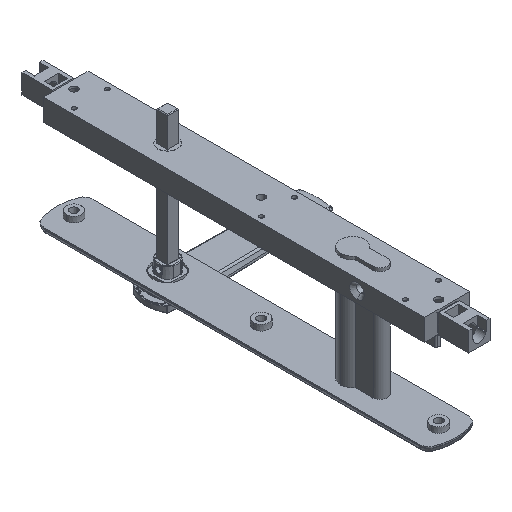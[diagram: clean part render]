
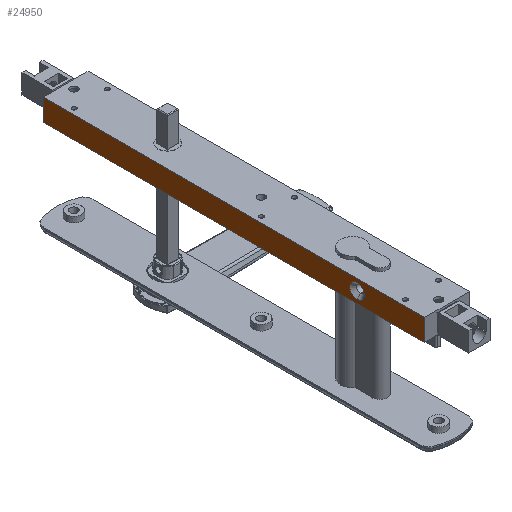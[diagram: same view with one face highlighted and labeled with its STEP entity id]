
A CAD part, isometric view. The second image highlights one B-rep face of the part: STEP entity #24950.
In plain terms, the highlighted planar face has unit normal (-1, 0, 0).
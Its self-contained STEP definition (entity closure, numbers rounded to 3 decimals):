
#1233 = EDGE_CURVE ( 'NONE', #19402, #24751, #26408, .T. ) ;
#1424 = CARTESIAN_POINT ( 'NONE',  ( -16., -151., 0. ) ) ;
#1786 = DIRECTION ( 'NONE',  ( 0., 0., 1. ) ) ;
#1937 = DIRECTION ( 'NONE',  ( -1., 0., 0. ) ) ;
#1944 = CARTESIAN_POINT ( 'NONE',  ( -16., 72.75, 7.75 ) ) ;
#2325 = CARTESIAN_POINT ( 'NONE',  ( -16., -151., 5.2 ) ) ;
#2965 = EDGE_CURVE ( 'NONE', #17445, #14324, #7978, .T. ) ;
#3465 = CIRCLE ( 'NONE', #11325, 5.2 ) ;
#3829 = EDGE_CURVE ( 'NONE', #19402, #19536, #29491, .T. ) ;
#4014 = EDGE_CURVE ( 'NONE', #24751, #25213, #21237, .T. ) ;
#4384 = FACE_OUTER_BOUND ( 'NONE', #19575, .T. ) ;
#4839 = EDGE_CURVE ( 'NONE', #14324, #17445, #3465, .T. ) ;
#4949 = VECTOR ( 'NONE', #8374, 1000. ) ;
#5782 = CARTESIAN_POINT ( 'NONE',  ( -16., 72.75, 7.75 ) ) ;
#7131 = CARTESIAN_POINT ( 'NONE',  ( -16., -151., 0. ) ) ;
#7978 = CIRCLE ( 'NONE', #25071, 5.2 ) ;
#8374 = DIRECTION ( 'NONE',  ( 0., -1., 0. ) ) ;
#8542 = LINE ( 'NONE', #10666, #4949 ) ;
#8601 = CARTESIAN_POINT ( 'NONE',  ( -16., -199.25, 7.75 ) ) ;
#8976 = ORIENTED_EDGE ( 'NONE', *, *, #2965, .F. ) ;
#10666 = CARTESIAN_POINT ( 'NONE',  ( -16., 72.75, -7.75 ) ) ;
#11019 = DIRECTION ( 'NONE',  ( 0., 0., -1. ) ) ;
#11325 = AXIS2_PLACEMENT_3D ( 'NONE', #7131, #1937, #1786 ) ;
#12606 = VECTOR ( 'NONE', #28698, 1000. ) ;
#13051 = ORIENTED_EDGE ( 'NONE', *, *, #1233, .F. ) ;
#13397 = FACE_BOUND ( 'NONE', #15279, .T. ) ;
#13795 = CARTESIAN_POINT ( 'NONE',  ( -16., 72.75, -7.75 ) ) ;
#13937 = CARTESIAN_POINT ( 'NONE',  ( -16., 72.75, 7.75 ) ) ;
#14324 = VERTEX_POINT ( 'NONE', #2325 ) ;
#15279 = EDGE_LOOP ( 'NONE', ( #27353, #8976 ) ) ;
#16196 = DIRECTION ( 'NONE',  ( 0., 0., -1. ) ) ;
#17445 = VERTEX_POINT ( 'NONE', #27828 ) ;
#19402 = VERTEX_POINT ( 'NONE', #13937 ) ;
#19536 = VERTEX_POINT ( 'NONE', #13795 ) ;
#19575 = EDGE_LOOP ( 'NONE', ( #21243, #25382, #13051, #24788 ) ) ;
#19894 = DIRECTION ( 'NONE',  ( -1., 0., 0. ) ) ;
#20278 = VECTOR ( 'NONE', #11019, 1000. ) ;
#21237 = LINE ( 'NONE', #25375, #21762 ) ;
#21243 = ORIENTED_EDGE ( 'NONE', *, *, #21437, .T. ) ;
#21437 = EDGE_CURVE ( 'NONE', #19536, #25213, #8542, .T. ) ;
#21762 = VECTOR ( 'NONE', #16196, 1000. ) ;
#24751 = VERTEX_POINT ( 'NONE', #8601 ) ;
#24772 = CARTESIAN_POINT ( 'NONE',  ( -16., 72.75, 7.75 ) ) ;
#24788 = ORIENTED_EDGE ( 'NONE', *, *, #3829, .T. ) ;
#24789 = DIRECTION ( 'NONE',  ( 0., 0., 1. ) ) ;
#24950 = ADVANCED_FACE ( 'NONE', ( #13397, #4384 ), #30028, .F. ) ;
#25012 = DIRECTION ( 'NONE',  ( 1., 0., 0. ) ) ;
#25071 = AXIS2_PLACEMENT_3D ( 'NONE', #1424, #19894, #24789 ) ;
#25084 = AXIS2_PLACEMENT_3D ( 'NONE', #1944, #25012, #25461 ) ;
#25213 = VERTEX_POINT ( 'NONE', #29088 ) ;
#25375 = CARTESIAN_POINT ( 'NONE',  ( -16., -199.25, 7.75 ) ) ;
#25382 = ORIENTED_EDGE ( 'NONE', *, *, #4014, .F. ) ;
#25461 = DIRECTION ( 'NONE',  ( 0., 1., 0. ) ) ;
#26408 = LINE ( 'NONE', #5782, #12606 ) ;
#27353 = ORIENTED_EDGE ( 'NONE', *, *, #4839, .F. ) ;
#27828 = CARTESIAN_POINT ( 'NONE',  ( -16., -151., -5.2 ) ) ;
#28698 = DIRECTION ( 'NONE',  ( 0., -1., 0. ) ) ;
#29088 = CARTESIAN_POINT ( 'NONE',  ( -16., -199.25, -7.75 ) ) ;
#29491 = LINE ( 'NONE', #24772, #20278 ) ;
#30028 = PLANE ( 'NONE',  #25084 ) ;
